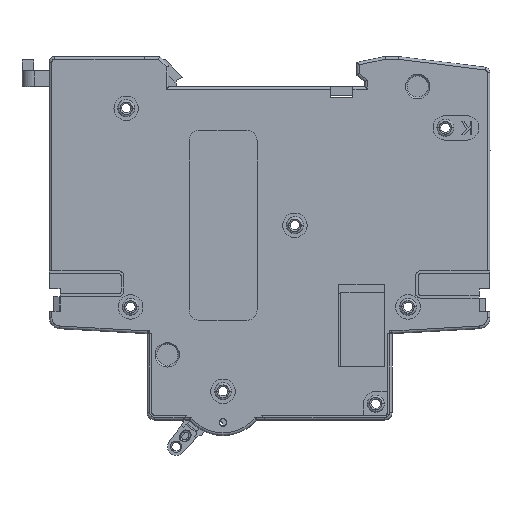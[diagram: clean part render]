
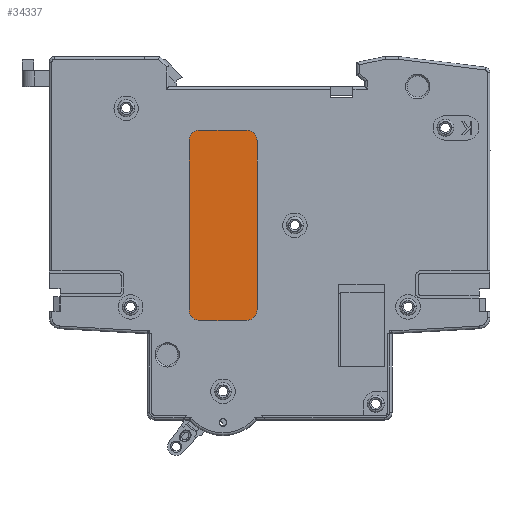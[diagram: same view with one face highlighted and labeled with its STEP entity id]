
A CAD part, front view. The second image highlights one B-rep face of the part: STEP entity #34337.
In plain terms, the highlighted planar face has unit normal (0, -1, 0).
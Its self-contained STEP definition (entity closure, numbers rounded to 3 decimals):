
#12745=DIRECTION('',(1.,0.,0.));
#12746=VECTOR('',#12745,8.5);
#12747=CARTESIAN_POINT('',(-4.25,0.2,48.));
#12748=LINE('',#12747,#12746);
#12757=DIRECTION('',(0.,0.,-1.));
#12758=VECTOR('',#12757,31.);
#12759=CARTESIAN_POINT('',(6.25,0.2,46.));
#12760=LINE('',#12759,#12758);
#12769=DIRECTION('',(-1.,0.,0.));
#12770=VECTOR('',#12769,8.5);
#12771=CARTESIAN_POINT('',(4.25,0.2,13.));
#12772=LINE('',#12771,#12770);
#12781=DIRECTION('',(0.,0.,1.));
#12782=VECTOR('',#12781,31.);
#12783=CARTESIAN_POINT('',(-6.25,0.2,15.));
#12784=LINE('',#12783,#12782);
#12793=CARTESIAN_POINT('',(4.25,0.2,46.));
#12794=DIRECTION('',(0.,-1.,0.));
#12795=DIRECTION('',(1.,0.,0.));
#12796=AXIS2_PLACEMENT_3D('',#12793,#12794,#12795);
#12798=CARTESIAN_POINT('',(4.25,0.2,15.));
#12799=DIRECTION('',(0.,-1.,0.));
#12800=DIRECTION('',(0.,0.,-1.));
#12801=AXIS2_PLACEMENT_3D('',#12798,#12799,#12800);
#12803=CARTESIAN_POINT('',(-4.25,0.2,15.));
#12804=DIRECTION('',(0.,-1.,0.));
#12805=DIRECTION('',(-1.,0.,0.));
#12806=AXIS2_PLACEMENT_3D('',#12803,#12804,#12805);
#12808=CARTESIAN_POINT('',(-4.25,0.2,46.));
#12809=DIRECTION('',(0.,-1.,0.));
#12810=DIRECTION('',(0.,0.,1.));
#12811=AXIS2_PLACEMENT_3D('',#12808,#12809,#12810);
#13194=CARTESIAN_POINT('',(6.25,0.2,46.));
#13195=CARTESIAN_POINT('',(4.25,0.2,48.));
#13196=VERTEX_POINT('',#13194);
#13197=VERTEX_POINT('',#13195);
#14297=CARTESIAN_POINT('',(-6.25,0.2,15.));
#14299=VERTEX_POINT('',#14297);
#14355=CARTESIAN_POINT('',(6.25,0.2,15.));
#14356=VERTEX_POINT('',#14355);
#14654=CARTESIAN_POINT('',(-4.25,0.2,48.));
#14656=VERTEX_POINT('',#14654);
#14894=CARTESIAN_POINT('',(-6.25,0.2,46.));
#14896=VERTEX_POINT('',#14894);
#14925=CARTESIAN_POINT('',(4.25,0.2,13.));
#14926=VERTEX_POINT('',#14925);
#16151=CARTESIAN_POINT('',(-4.25,0.2,13.));
#16152=VERTEX_POINT('',#16151);
#34322=CARTESIAN_POINT('',(4.25,0.2,46.));
#34323=DIRECTION('',(0.,1.,0.));
#34324=DIRECTION('',(0.,0.,1.));
#34325=AXIS2_PLACEMENT_3D('',#34322,#34323,#34324);
#34326=PLANE('',#34325);
#34327=ORIENTED_EDGE('',*,*,#34233,.F.);
#34328=ORIENTED_EDGE('',*,*,#34247,.T.);
#34329=ORIENTED_EDGE('',*,*,#34261,.F.);
#34330=ORIENTED_EDGE('',*,*,#34275,.T.);
#34331=ORIENTED_EDGE('',*,*,#34289,.F.);
#34332=ORIENTED_EDGE('',*,*,#34303,.T.);
#34333=ORIENTED_EDGE('',*,*,#34316,.F.);
#34334=ORIENTED_EDGE('',*,*,#34218,.T.);
#34335=EDGE_LOOP('',(#34327,#34328,#34329,#34330,#34331,#34332,#34333,#34334));
#34336=FACE_OUTER_BOUND('',#34335,.F.);
#34337=ADVANCED_FACE('',(#34336),#34326,.F.);
#12797=CIRCLE('',#12796,2.);
#12802=CIRCLE('',#12801,2.);
#12807=CIRCLE('',#12806,2.);
#12812=CIRCLE('',#12811,2.);
#34218=EDGE_CURVE('',#14656,#13197,#12748,.T.);
#34233=EDGE_CURVE('',#13196,#13197,#12797,.T.);
#34247=EDGE_CURVE('',#13196,#14356,#12760,.T.);
#34261=EDGE_CURVE('',#14926,#14356,#12802,.T.);
#34275=EDGE_CURVE('',#14926,#16152,#12772,.T.);
#34289=EDGE_CURVE('',#14299,#16152,#12807,.T.);
#34303=EDGE_CURVE('',#14299,#14896,#12784,.T.);
#34316=EDGE_CURVE('',#14656,#14896,#12812,.T.);
